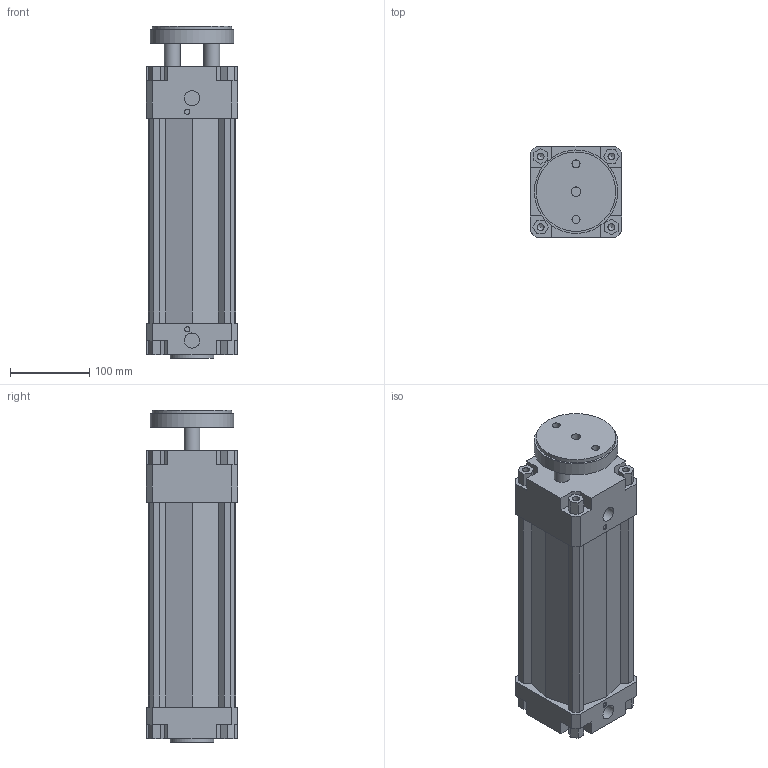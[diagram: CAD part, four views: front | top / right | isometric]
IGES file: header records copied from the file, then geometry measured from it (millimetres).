
Global section: file name: 134#_100_0200_01; native system: Autodesk Inventor 2014; preprocessor: unknown; author: A. Manieri; date: 20161006.165308; units: millimetre
Bounding box: 115 x 115 x 418 mm (x, y, z)
Volume: 2727973.8 mm3; surface area: 409790.2 mm2
Topology: 2 solids, 2 shells, 180 faces, 491 edges, 335 vertices
Faces by surface type: bspline 180
